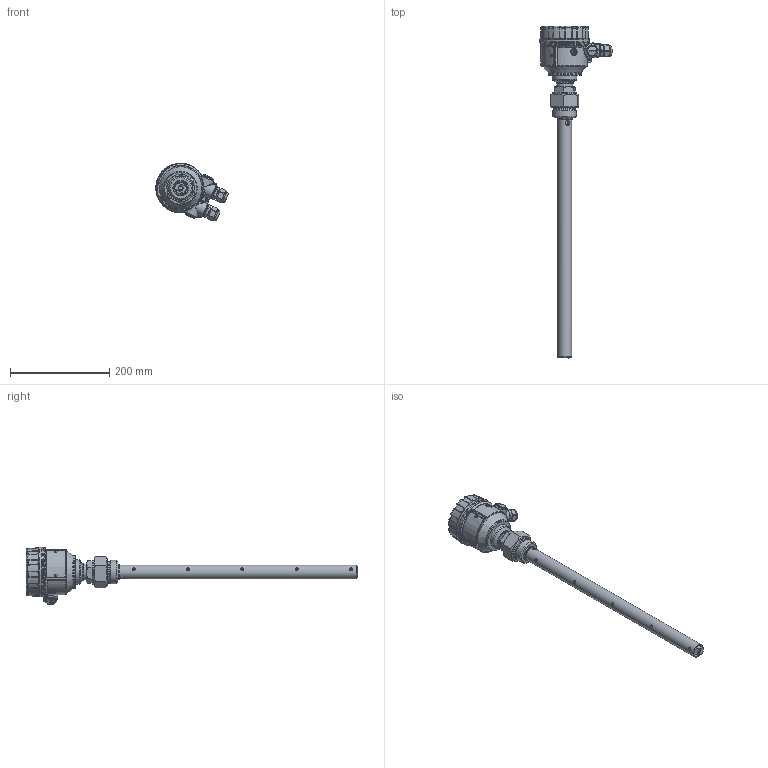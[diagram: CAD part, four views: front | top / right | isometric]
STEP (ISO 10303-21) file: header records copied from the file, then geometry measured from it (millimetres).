
FILE_DESCRIPTION(/* description */ (''),/* implementation_level */ '2;1');
FILE_NAME(/* name */ 'I:\Raj\3D\készülék rajzok\Összeállított készülékek\HT\HBC_7.stp',/* time_stamp */ '2022-08-24T14:48:37+02:00',/* author */ ('zcserhati'),/* organization */ (''),/* preprocessor_version */ 'ST-DEVELOPER v15.6',/* originating_system */ 'Autodesk Inventor 2015',/* authorisation */ '');
FILE_SCHEMA (('AUTOMOTIVE_DESIGN { 1 0 10303 214 3 1 1 }'));
Length unit declared in the file: millimetre
Products named in the file (29): RKH_1_1.0001; ZARO; SB_külső; U_Alát; DIN 128 - A4; DIN 7985 (Z) - M4x8-Z; Tlem_egy; adattabla; Szegecs; SZERELTHAZ; Alu_alacsony_uveg; HTK_HFogl_Welds; HTK_Csatl; HTK_Agy; HTK_HFogl; teflonbetét; ellenanya; Rud_500; HTA_Ln=500_Welds; HTC_Fogl; Ln=500; HTA_Ln=500; Tarcsa; Szon_500; Tomsz; Alatet; Gumidugo; Tomszel_sz; HBC_7
Bounding box: 145.83 x 669.3 x 115.79 mm (x, y, z)
Volume: 469459.7 mm3; surface area: 258282.6 mm2
Topology: 30 solids, 30 shells, 1293 faces, 3138 edges, 1906 vertices
Faces by surface type: plane 368, cylinder 349, bspline 330, torus 98, cone 92, sphere 56
Full cylindrical faces by diameter (mm): 3 x6, 3.2 x2, 3.242 x1, 3.4 x2, 3.5 x5, 3.65 x1, 3.9 x1, 4 x1, 4.1 x1, 4.3 x1, 5.9 x1, 6 x10, 6.2 x2, 8 x2, 10 x6, 12.5 x4, 14 x2, 17 x3, 18.15 x7, 18.3 x12, 20 x10, 23.5 x2, 24 x1, 24.5 x1, 25 x2, 26 x2, 27 x2, 27.5 x2, 28 x3, 30 x3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
Entity records: 50697 total; most frequent: CARTESIAN_POINT 24769, ORIENTED_EDGE 5232, DIRECTION 4719, EDGE_CURVE 2614, AXIS2_PLACEMENT_3D 2003, VERTEX_POINT 1699, EDGE_LOOP 1499, FACE_OUTER_BOUND 1198
